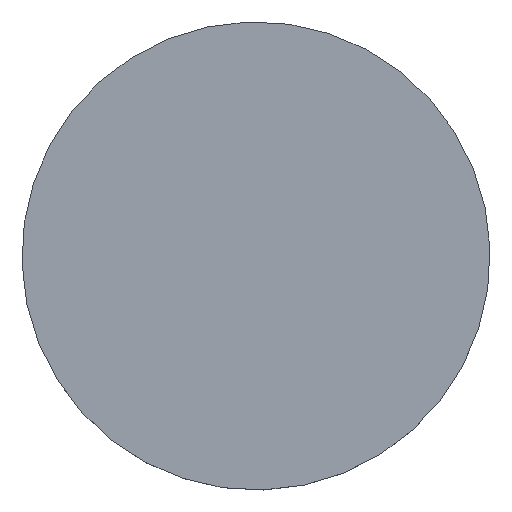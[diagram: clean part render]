
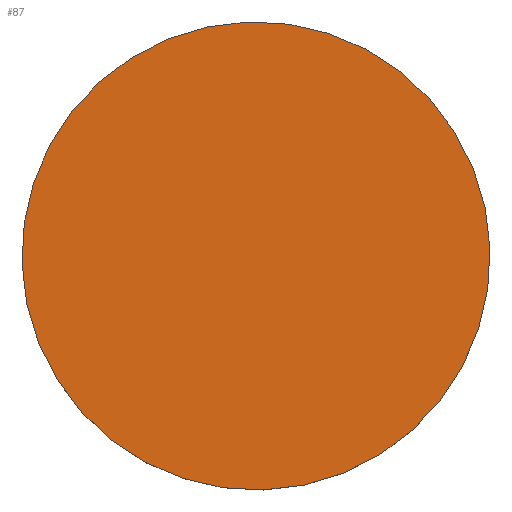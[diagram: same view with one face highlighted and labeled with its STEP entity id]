
A CAD part, top view. The second image highlights one B-rep face of the part: STEP entity #87.
In plain terms, the highlighted planar face has unit normal (0, 0, 1).
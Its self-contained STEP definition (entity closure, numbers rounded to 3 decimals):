
#43=PLANE('',#83);
#47=ORIENTED_EDGE('',*,*,#53,.F.);
#49=CIRCLE('',#81,21.2);
#51=VERTEX_POINT('',#75);
#53=EDGE_CURVE('',#51,#51,#49,.T.);
#57=EDGE_LOOP('',(#47));
#61=FACE_BOUND('',#57,.T.);
#66=DIRECTION('',(0.,0.,-1.));
#67=DIRECTION('',(14.164,-15.774,0.));
#70=DIRECTION('',(0.,0.,1.));
#71=DIRECTION('',(0.,-1.,0.));
#75=CARTESIAN_POINT('',(-1545.836,7164.226,3.));
#76=CARTESIAN_POINT('',(-1560.,7180.,3.));
#78=CARTESIAN_POINT('',(0.,0.,3.));
#81=AXIS2_PLACEMENT_3D('',#76,#66,#67);
#83=AXIS2_PLACEMENT_3D('',#78,#70,#71);
#87=ADVANCED_FACE('',(#61),#43,.T.);
